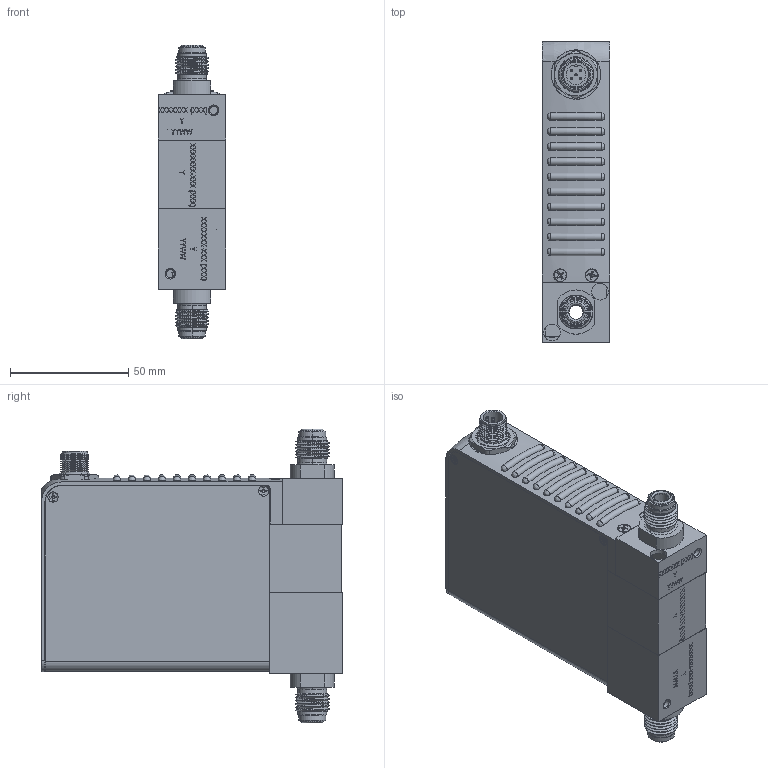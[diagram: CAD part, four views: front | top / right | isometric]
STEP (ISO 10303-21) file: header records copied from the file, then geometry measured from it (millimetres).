
FILE_DESCRIPTION (( 'STEP AP203' ), '1' );
FILE_NAME ('GF100-GF120-GF125-VS-DX.STEP', '2022-08-30T11:28:04', ( '' ), ( '' ), 'SwSTEP 2.0', 'SolidWorks 2020', '' );
FILE_SCHEMA (( 'CONFIG_CONTROL_DESIGN' ));
Length unit declared in the file: inch
Products named in the file (1): GF100-GF120-GF125-VS-DX
Bounding box: 28.45 x 127 x 124.02 mm (x, y, z)
Volume: 58712.4 mm3; surface area: 78619.3 mm2
Topology: 26 solids, 26 shells, 3961 faces, 10488 edges, 6877 vertices
Faces by surface type: plane 2104, bspline 971, cylinder 553, cone 247, torus 77, sphere 9
Entity records: 154085 total; most frequent: CARTESIAN_POINT 62950, ORIENTED_EDGE 20870, DIRECTION 15142, EDGE_CURVE 10435, VERTEX_POINT 6863, LINE 6618, VECTOR 6618, EDGE_LOOP 4392
